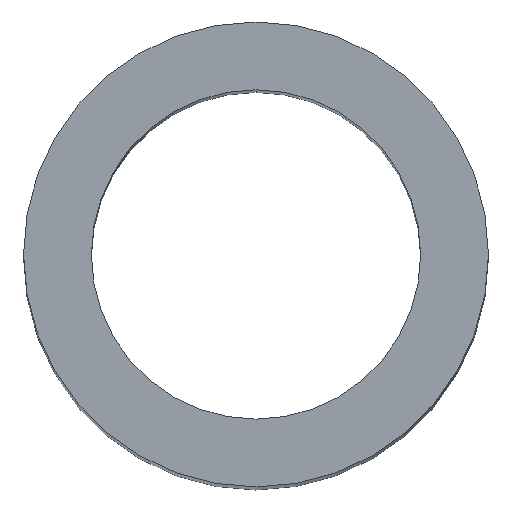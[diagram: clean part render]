
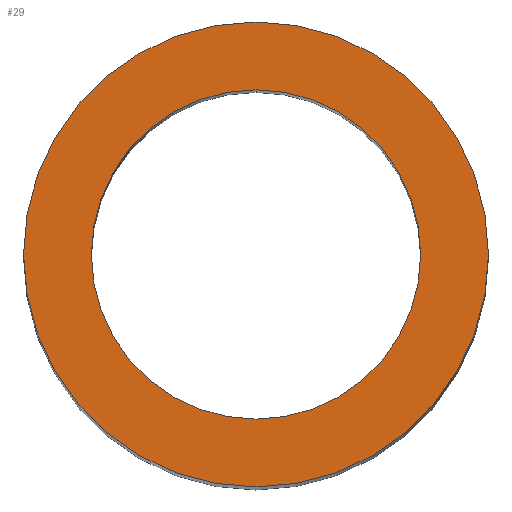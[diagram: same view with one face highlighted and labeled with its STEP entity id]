
A CAD part, top view. The second image highlights one B-rep face of the part: STEP entity #29.
In plain terms, the highlighted planar face has unit normal (0, 0, 1).
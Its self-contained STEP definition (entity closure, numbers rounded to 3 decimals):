
#1 = CIRCLE ( 'NONE', #3, 9.315 ) ;
#2 = DIRECTION ( 'NONE',  ( 0., 0., -1. ) ) ;
#3 = AXIS2_PLACEMENT_3D ( 'NONE', #4, #2, #5 ) ;
#4 = CARTESIAN_POINT ( 'NONE',  ( 0., 0., 0. ) ) ;
#5 = DIRECTION ( 'NONE',  ( 0., 1., 0. ) ) ;
#24 = ORIENTED_EDGE ( 'NONE', *, *, #30, .T. ) ;
#28 = EDGE_LOOP ( 'NONE', ( #33, #34 ) ) ;
#29 = ADVANCED_FACE ( 'NONE', ( #57, #56 ), #51, .F. ) ;
#30 = EDGE_CURVE ( 'NONE', #132, #130, #46, .T. ) ;
#31 = ORIENTED_EDGE ( 'NONE', *, *, #114, .T. ) ;
#32 = EDGE_LOOP ( 'NONE', ( #31, #24 ) ) ;
#33 = ORIENTED_EDGE ( 'NONE', *, *, #83, .T. ) ;
#34 = ORIENTED_EDGE ( 'NONE', *, *, #125, .T. ) ;
#42 = DIRECTION ( 'NONE',  ( 1., 0., 0. ) ) ;
#43 = DIRECTION ( 'NONE',  ( 0., 0., 1. ) ) ;
#44 = CARTESIAN_POINT ( 'NONE',  ( 0., 0., 0. ) ) ;
#45 = AXIS2_PLACEMENT_3D ( 'NONE', #44, #43, #42 ) ;
#46 = CIRCLE ( 'NONE', #45, 13.15 ) ;
#47 = DIRECTION ( 'NONE',  ( -1., 0., 0. ) ) ;
#48 = DIRECTION ( 'NONE',  ( 0., 0., -1. ) ) ;
#49 = CARTESIAN_POINT ( 'NONE',  ( 0., 13.15, 0. ) ) ;
#50 = AXIS2_PLACEMENT_3D ( 'NONE', #49, #48, #47 ) ;
#51 = PLANE ( 'NONE',  #50 ) ;
#56 = FACE_OUTER_BOUND ( 'NONE', #32, .T. ) ;
#57 = FACE_BOUND ( 'NONE', #28, .T. ) ;
#83 = EDGE_CURVE ( 'NONE', #134, #133, #1, .T. ) ;
#114 = EDGE_CURVE ( 'NONE', #130, #132, #400, .T. ) ;
#125 = EDGE_CURVE ( 'NONE', #133, #134, #352, .T. ) ;
#130 = VERTEX_POINT ( 'NONE', #327 ) ;
#132 = VERTEX_POINT ( 'NONE', #235 ) ;
#133 = VERTEX_POINT ( 'NONE', #234 ) ;
#134 = VERTEX_POINT ( 'NONE', #233 ) ;
#233 = CARTESIAN_POINT ( 'NONE',  ( 0., 9.315, 0. ) ) ;
#234 = CARTESIAN_POINT ( 'NONE',  ( 0., -9.315, 0. ) ) ;
#235 = CARTESIAN_POINT ( 'NONE',  ( -13.15, 0., 0. ) ) ;
#327 = CARTESIAN_POINT ( 'NONE',  ( 13.15, 0., 0. ) ) ;
#343 = DIRECTION ( 'NONE',  ( 0., 1., 0. ) ) ;
#344 = DIRECTION ( 'NONE',  ( 0., 0., -1. ) ) ;
#345 = CARTESIAN_POINT ( 'NONE',  ( 0., 0., 0. ) ) ;
#346 = AXIS2_PLACEMENT_3D ( 'NONE', #345, #344, #343 ) ;
#352 = CIRCLE ( 'NONE', #346, 9.315 ) ;
#396 = DIRECTION ( 'NONE',  ( 1., 0., 0. ) ) ;
#397 = DIRECTION ( 'NONE',  ( 0., 0., 1. ) ) ;
#398 = CARTESIAN_POINT ( 'NONE',  ( 0., 0., 0. ) ) ;
#399 = AXIS2_PLACEMENT_3D ( 'NONE', #398, #397, #396 ) ;
#400 = CIRCLE ( 'NONE', #399, 13.15 ) ;
